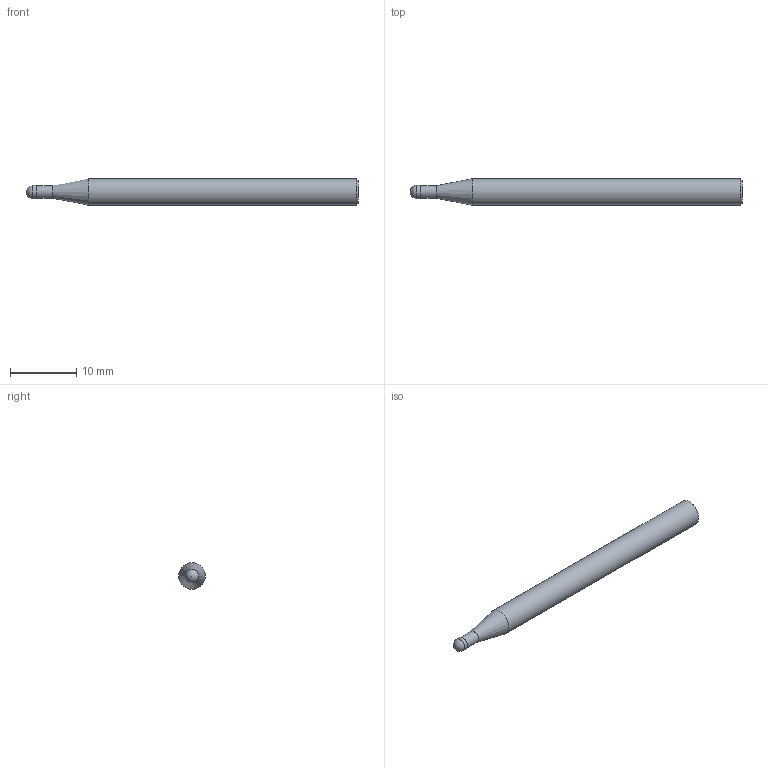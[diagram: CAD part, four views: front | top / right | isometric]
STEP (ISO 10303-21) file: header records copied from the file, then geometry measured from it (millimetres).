
FILE_DESCRIPTION(/* description */ (''),/* implementation_level */ '2;1');
FILE_NAME(/* name */ 'HSXB2020 0450.stp',/* time_stamp */ '2026-08-01T16:15:40+08:00',/* author */ (''),/* organization */ (''),/* preprocessor_version */ 'ST-DEVELOPER v16',/* originating_system */ 'SIEMENS PLM Software NX 10.0',/* authorisation */ '');
FILE_SCHEMA (('CONFIG_CONTROL_DESIGN'));
Length unit declared in the file: millimetre
Products named in the file (1): HSXB2020 0450_dxf
Bounding box: 50 x 4 x 4 mm (x, y, z)
Volume: 559.2 mm3; surface area: 602.6 mm2
Topology: 2 solids, 2 shells, 9 faces, 14 edges, 8 vertices
Faces by surface type: plane 3, cylinder 3, cone 2, sphere 1
Full cylindrical faces by diameter (mm): 1.9 x1, 2 x1, 4 x1
Entity records: 246 total; most frequent: DIRECTION 34, CARTESIAN_POINT 24, AXIS2_PLACEMENT_3D 17, EDGE_LOOP 14, ORIENTED_EDGE 14, FACE_BOUND 10, ADVANCED_FACE 9, PERSON_AND_ORGANIZATION 7
